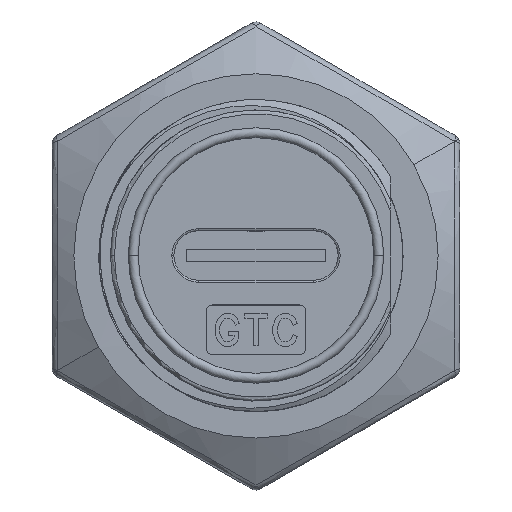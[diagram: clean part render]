
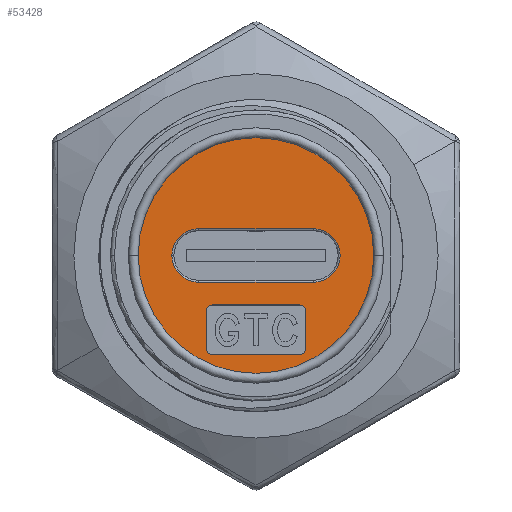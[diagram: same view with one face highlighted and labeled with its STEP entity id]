
A CAD part, top view. The second image highlights one B-rep face of the part: STEP entity #53428.
In plain terms, the highlighted planar face has unit normal (0, 0, 1).
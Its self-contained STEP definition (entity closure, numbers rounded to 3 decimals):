
#5314 = DIRECTION ( 'NONE',  ( 0., 0., -1. ) ) ;
#5318 = PLANE ( 'NONE',  #55850 ) ;
#5362 = DIRECTION ( 'NONE',  ( -1., 0., 0. ) ) ;
#5391 = CARTESIAN_POINT ( 'NONE',  ( 0., 7.35, 20.1 ) ) ;
#38152 = EDGE_CURVE ( 'NONE', #39704, #39619, #46013, .T. ) ;
#38199 = EDGE_CURVE ( 'NONE', #39751, #39743, #46092, .T. ) ;
#38532 = EDGE_CURVE ( 'NONE', #39906, #38732, #45289, .T. ) ;
#38539 = EDGE_CURVE ( 'NONE', #38744, #39906, #45287, .T. ) ;
#38545 = EDGE_CURVE ( 'NONE', #39922, #39916, #45266, .T. ) ;
#38551 = EDGE_CURVE ( 'NONE', #39916, #38791, #45269, .T. ) ;
#38552 = EDGE_CURVE ( 'NONE', #38782, #39920, #45292, .T. ) ;
#38554 = EDGE_CURVE ( 'NONE', #39619, #38782, #45267, .T. ) ;
#38564 = EDGE_CURVE ( 'NONE', #39920, #38767, #45290, .T. ) ;
#38566 = EDGE_CURVE ( 'NONE', #38791, #39918, #45256, .T. ) ;
#38574 = EDGE_CURVE ( 'NONE', #38767, #39704, #45242, .T. ) ;
#38583 = EDGE_CURVE ( 'NONE', #38770, #38744, #45243, .T. ) ;
#38584 = EDGE_CURVE ( 'NONE', #39743, #39751, #45288, .T. ) ;
#38732 = VERTEX_POINT ( 'NONE', #52015 ) ;
#38744 = VERTEX_POINT ( 'NONE', #51973 ) ;
#38767 = VERTEX_POINT ( 'NONE', #52021 ) ;
#38770 = VERTEX_POINT ( 'NONE', #52026 ) ;
#38782 = VERTEX_POINT ( 'NONE', #52028 ) ;
#38791 = VERTEX_POINT ( 'NONE', #51967 ) ;
#39619 = VERTEX_POINT ( 'NONE', #51432 ) ;
#39704 = VERTEX_POINT ( 'NONE', #51511 ) ;
#39743 = VERTEX_POINT ( 'NONE', #51555 ) ;
#39751 = VERTEX_POINT ( 'NONE', #51529 ) ;
#39906 = VERTEX_POINT ( 'NONE', #51705 ) ;
#39916 = VERTEX_POINT ( 'NONE', #51717 ) ;
#39918 = VERTEX_POINT ( 'NONE', #51722 ) ;
#39920 = VERTEX_POINT ( 'NONE', #51745 ) ;
#39922 = VERTEX_POINT ( 'NONE', #51697 ) ;
#40334 = ORIENTED_EDGE ( 'NONE', *, *, #38552, .T. ) ;
#40336 = ORIENTED_EDGE ( 'NONE', *, *, #38566, .F. ) ;
#40338 = ORIENTED_EDGE ( 'NONE', *, *, #38545, .F. ) ;
#40339 = ORIENTED_EDGE ( 'NONE', *, *, #38564, .T. ) ;
#40340 = ORIENTED_EDGE ( 'NONE', *, *, #42841, .F. ) ;
#40342 = ORIENTED_EDGE ( 'NONE', *, *, #38532, .F. ) ;
#40350 = ORIENTED_EDGE ( 'NONE', *, *, #38554, .T. ) ;
#40354 = ORIENTED_EDGE ( 'NONE', *, *, #38152, .T. ) ;
#40377 = ORIENTED_EDGE ( 'NONE', *, *, #38574, .T. ) ;
#40380 = ORIENTED_EDGE ( 'NONE', *, *, #38551, .F. ) ;
#40400 = ORIENTED_EDGE ( 'NONE', *, *, #38583, .F. ) ;
#40401 = ORIENTED_EDGE ( 'NONE', *, *, #42816, .F. ) ;
#40404 = ORIENTED_EDGE ( 'NONE', *, *, #38584, .T. ) ;
#40438 = ORIENTED_EDGE ( 'NONE', *, *, #38539, .F. ) ;
#40472 = ORIENTED_EDGE ( 'NONE', *, *, #38199, .T. ) ;
#41847 = EDGE_LOOP ( 'NONE', ( #40336, #40380, #40338, #40340, #40342, #40438, #40400, #40401 ) ) ;
#41861 = EDGE_LOOP ( 'NONE', ( #40354, #40350, #40334, #40339, #40377 ) ) ;
#41886 = EDGE_LOOP ( 'NONE', ( #40404, #40472 ) ) ;
#42626 = AXIS2_PLACEMENT_3D ( 'NONE', #46866, #46856, #46865 ) ;
#42687 = AXIS2_PLACEMENT_3D ( 'NONE', #46973, #46974, #46991 ) ;
#42705 = AXIS2_PLACEMENT_3D ( 'NONE', #49152, #49168, #49170 ) ;
#42708 = AXIS2_PLACEMENT_3D ( 'NONE', #49258, #49259, #49260 ) ;
#42712 = AXIS2_PLACEMENT_3D ( 'NONE', #49056, #49037, #49038 ) ;
#42713 = AXIS2_PLACEMENT_3D ( 'NONE', #49157, #49144, #49180 ) ;
#42714 = AXIS2_PLACEMENT_3D ( 'NONE', #49223, #49226, #49225 ) ;
#42816 = EDGE_CURVE ( 'NONE', #39918, #38770, #50418, .T. ) ;
#42841 = EDGE_CURVE ( 'NONE', #38732, #39922, #50478, .T. ) ;
#45242 = LINE ( 'NONE', #49227, #45276 ) ;
#45243 = LINE ( 'NONE', #49282, #45272 ) ;
#45256 = LINE ( 'NONE', #49231, #45257 ) ;
#45257 = VECTOR ( 'NONE', #49228, 1000. ) ;
#45266 = LINE ( 'NONE', #49120, #45285 ) ;
#45267 = CIRCLE ( 'NONE', #42705, 1.35 ) ;
#45269 = CIRCLE ( 'NONE', #42713, 0.3 ) ;
#45272 = VECTOR ( 'NONE', #49249, 1000. ) ;
#45276 = VECTOR ( 'NONE', #49214, 1000. ) ;
#45277 = VECTOR ( 'NONE', #49050, 1000. ) ;
#45285 = VECTOR ( 'NONE', #49098, 1000. ) ;
#45286 = VECTOR ( 'NONE', #49145, 1000. ) ;
#45287 = CIRCLE ( 'NONE', #42712, 0.3 ) ;
#45288 = CIRCLE ( 'NONE', #42708, 5.95 ) ;
#45289 = LINE ( 'NONE', #49042, #45277 ) ;
#45290 = CIRCLE ( 'NONE', #42714, 1.35 ) ;
#45292 = LINE ( 'NONE', #49166, #45286 ) ;
#46013 = CIRCLE ( 'NONE', #42626, 1.35 ) ;
#46092 = CIRCLE ( 'NONE', #42687, 5.95 ) ;
#46856 = DIRECTION ( 'NONE',  ( 0., 0., -1. ) ) ;
#46865 = DIRECTION ( 'NONE',  ( -1., 0., 0. ) ) ;
#46866 = CARTESIAN_POINT ( 'NONE',  ( -2.9, 0., 20.1 ) ) ;
#46973 = CARTESIAN_POINT ( 'NONE',  ( 0., 0., 20.1 ) ) ;
#46974 = DIRECTION ( 'NONE',  ( 0., 0., 1. ) ) ;
#46991 = DIRECTION ( 'NONE',  ( 1., 0., 0. ) ) ;
#49037 = DIRECTION ( 'NONE',  ( 0., 0., 1. ) ) ;
#49038 = DIRECTION ( 'NONE',  ( -1., 0., 0. ) ) ;
#49042 = CARTESIAN_POINT ( 'NONE',  ( -2.2, -5., 20.1 ) ) ;
#49050 = DIRECTION ( 'NONE',  ( 1., 0., 0. ) ) ;
#49056 = CARTESIAN_POINT ( 'NONE',  ( -2.2, -4.7, 20.1 ) ) ;
#49098 = DIRECTION ( 'NONE',  ( 0., 1., 0. ) ) ;
#49120 = CARTESIAN_POINT ( 'NONE',  ( 2.5, -2.8, 20.1 ) ) ;
#49144 = DIRECTION ( 'NONE',  ( 0., 0., 1. ) ) ;
#49145 = DIRECTION ( 'NONE',  ( 1., 0., 0. ) ) ;
#49152 = CARTESIAN_POINT ( 'NONE',  ( -2.9, 0., 20.1 ) ) ;
#49157 = CARTESIAN_POINT ( 'NONE',  ( 2.2, -2.8, 20.1 ) ) ;
#49166 = CARTESIAN_POINT ( 'NONE',  ( 0., 1.35, 20.1 ) ) ;
#49168 = DIRECTION ( 'NONE',  ( 0., 0., -1. ) ) ;
#49170 = DIRECTION ( 'NONE',  ( -1., 0., 0. ) ) ;
#49180 = DIRECTION ( 'NONE',  ( -1., 0., 0. ) ) ;
#49214 = DIRECTION ( 'NONE',  ( -1., 0., 0. ) ) ;
#49223 = CARTESIAN_POINT ( 'NONE',  ( 2.9, 0., 20.1 ) ) ;
#49225 = DIRECTION ( 'NONE',  ( -1., 0., 0. ) ) ;
#49226 = DIRECTION ( 'NONE',  ( 0., 0., -1. ) ) ;
#49227 = CARTESIAN_POINT ( 'NONE',  ( 0., -1.35, 20.1 ) ) ;
#49228 = DIRECTION ( 'NONE',  ( -1., 0., 0. ) ) ;
#49231 = CARTESIAN_POINT ( 'NONE',  ( -2.2, -2.5, 20.1 ) ) ;
#49249 = DIRECTION ( 'NONE',  ( 0., -1., 0. ) ) ;
#49258 = CARTESIAN_POINT ( 'NONE',  ( 0., 0., 20.1 ) ) ;
#49259 = DIRECTION ( 'NONE',  ( 0., 0., 1. ) ) ;
#49260 = DIRECTION ( 'NONE',  ( 1., 0., 0. ) ) ;
#49282 = CARTESIAN_POINT ( 'NONE',  ( -2.5, -2.8, 20.1 ) ) ;
#50418 = CIRCLE ( 'NONE', #56559, 0.3 ) ;
#50478 = CIRCLE ( 'NONE', #56713, 0.3 ) ;
#51432 = CARTESIAN_POINT ( 'NONE',  ( -4.25, 0., 20.1 ) ) ;
#51511 = CARTESIAN_POINT ( 'NONE',  ( -2.9, -1.35, 20.1 ) ) ;
#51529 = CARTESIAN_POINT ( 'NONE',  ( 5.95, 0., 20.1 ) ) ;
#51555 = CARTESIAN_POINT ( 'NONE',  ( -5.95, 0., 20.1 ) ) ;
#51697 = CARTESIAN_POINT ( 'NONE',  ( 2.5, -4.7, 20.1 ) ) ;
#51705 = CARTESIAN_POINT ( 'NONE',  ( -2.2, -5., 20.1 ) ) ;
#51717 = CARTESIAN_POINT ( 'NONE',  ( 2.5, -2.8, 20.1 ) ) ;
#51722 = CARTESIAN_POINT ( 'NONE',  ( -2.2, -2.5, 20.1 ) ) ;
#51745 = CARTESIAN_POINT ( 'NONE',  ( 2.9, 1.35, 20.1 ) ) ;
#51967 = CARTESIAN_POINT ( 'NONE',  ( 2.2, -2.5, 20.1 ) ) ;
#51973 = CARTESIAN_POINT ( 'NONE',  ( -2.5, -4.7, 20.1 ) ) ;
#52015 = CARTESIAN_POINT ( 'NONE',  ( 2.2, -5., 20.1 ) ) ;
#52021 = CARTESIAN_POINT ( 'NONE',  ( 2.9, -1.35, 20.1 ) ) ;
#52026 = CARTESIAN_POINT ( 'NONE',  ( -2.5, -2.8, 20.1 ) ) ;
#52028 = CARTESIAN_POINT ( 'NONE',  ( -2.9, 1.35, 20.1 ) ) ;
#53428 = ADVANCED_FACE ( 'NONE', ( #59888, #59889, #59892 ), #5318, .F. ) ;
#53849 = DIRECTION ( 'NONE',  ( 0., 0., 1. ) ) ;
#53850 = DIRECTION ( 'NONE',  ( 1., 0., 0. ) ) ;
#53868 = CARTESIAN_POINT ( 'NONE',  ( -2.2, -2.8, 20.1 ) ) ;
#53895 = CARTESIAN_POINT ( 'NONE',  ( 2.2, -4.7, 20.1 ) ) ;
#53896 = DIRECTION ( 'NONE',  ( 1., 0., 0. ) ) ;
#53906 = DIRECTION ( 'NONE',  ( 0., 0., 1. ) ) ;
#55850 = AXIS2_PLACEMENT_3D ( 'NONE', #5391, #5314, #5362 ) ;
#56559 = AXIS2_PLACEMENT_3D ( 'NONE', #53868, #53849, #53850 ) ;
#56713 = AXIS2_PLACEMENT_3D ( 'NONE', #53895, #53906, #53896 ) ;
#59888 = FACE_BOUND ( 'NONE', #41861, .T. ) ;
#59889 = FACE_BOUND ( 'NONE', #41847, .T. ) ;
#59892 = FACE_OUTER_BOUND ( 'NONE', #41886, .T. ) ;
